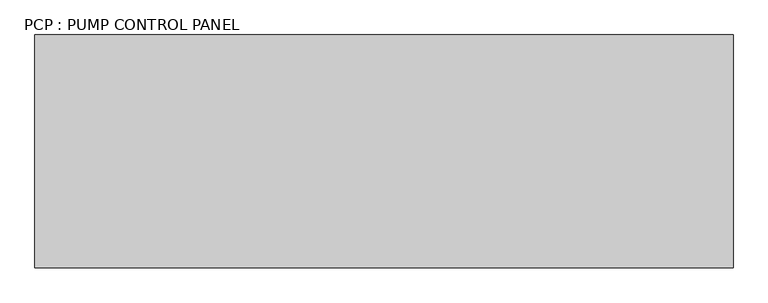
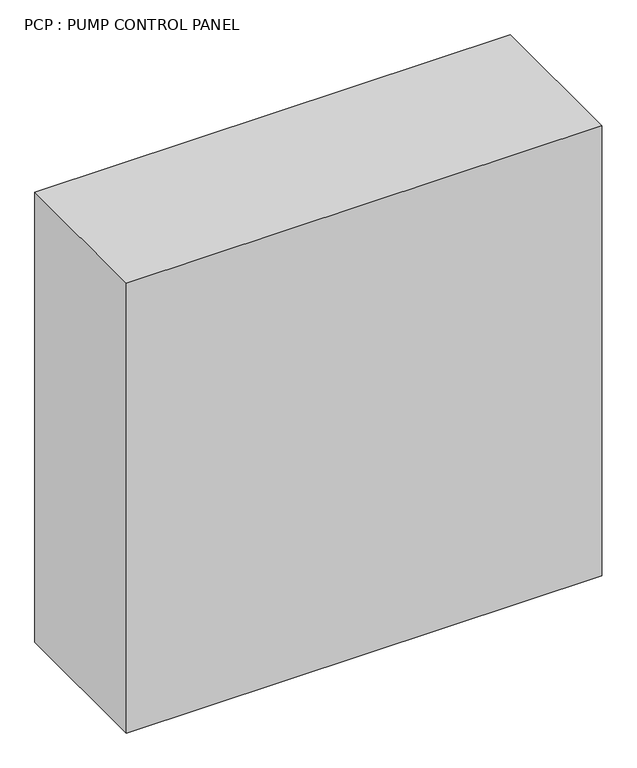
"""IFC4 building model written with IfcOpenShell, lengths in millimetres: proxy geometry, PCP : PUMP CONTROL PANEL."""

from ifc_helpers import new_model, si_unit, origin, origin_with_axes, place, context, project, spatial, polyline, outline, extrude, source, transform, mapped, element, save


def pcp_pump_control_panel_a71530d5(model_context):
    return source(origin(), model_context, "Body", "SweptSolid", [
        extrude(outline(polyline([(914.4, 327.3909879), (914.4, -282.2090121), (-914.4, -282.2090121), (-914.4, 327.3909879), (914.4, 327.3909879)])), origin_with_axes(), (0.0, 0.0, 1.0), 1828.8),
    ])


if __name__ == "__main__":
    model = new_model("IFC4")
    model_context = context("Model", 3, world=origin())
    ifc_project = project(units=[si_unit("LENGTHUNIT", "METRE", prefix="MILLI")], contexts=[model_context])
    site = spatial("IfcSite", under=ifc_project)
    building = spatial("IfcBuilding", under=site)
    placement = place(None, origin())
    pcp_pump_control_panel_shape = pcp_pump_control_panel_a71530d5(model_context)
    element("IfcBuildingElementProxy", 1, Name="PCP : PUMP CONTROL PANEL", ObjectType="PCP : PUMP CONTROL PANEL", at=placement, inside=building, context=model_context, shape_type="MappedRepresentation", body=[
        mapped(pcp_pump_control_panel_shape, transform((0.0, 0.0, 0.0), x_axis=(1.0, 0.0, 0.0), y_axis=(0.0, 1.0, 0.0), z_axis=(0.0, 0.0, 1.0))),
    ])
    save(model, "model.ifc")
